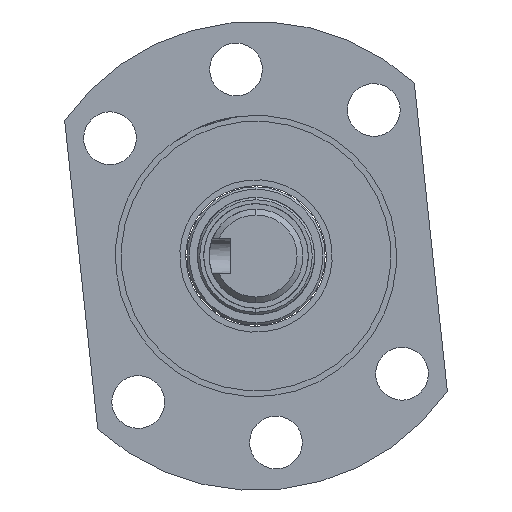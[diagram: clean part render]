
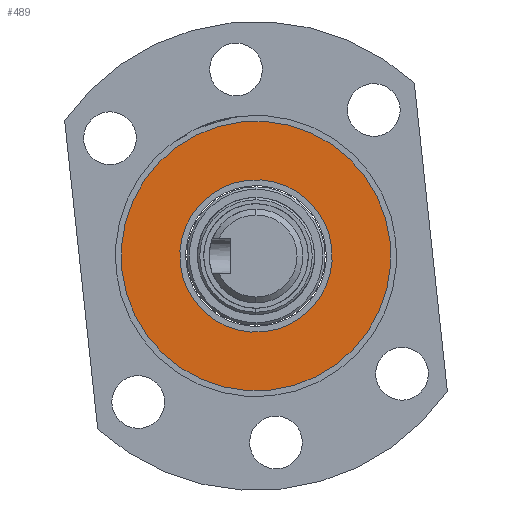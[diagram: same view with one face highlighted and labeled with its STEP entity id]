
A CAD part, left-side view. The second image highlights one B-rep face of the part: STEP entity #489.
In plain terms, the highlighted planar face has unit normal (-1, 0, 0).
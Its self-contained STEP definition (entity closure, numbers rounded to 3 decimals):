
#104 = DIRECTION ( 'NONE',  ( 0., 0., -1. ) ) ;
#150 = AXIS2_PLACEMENT_3D ( 'NONE', #4926, #5900, #104 ) ;
#348 = DIRECTION ( 'NONE',  ( 1., 0., 0. ) ) ;
#453 = VERTEX_POINT ( 'NONE', #12392 ) ;
#489 = ADVANCED_FACE ( 'NONE', ( #2304, #12456 ), #1316, .F. ) ;
#957 = DIRECTION ( 'NONE',  ( 0., 0., -1. ) ) ;
#1174 = ORIENTED_EDGE ( 'NONE', *, *, #8788, .F. ) ;
#1316 = PLANE ( 'NONE',  #9141 ) ;
#1577 = DIRECTION ( 'NONE',  ( 0., 1., 0. ) ) ;
#1619 = DIRECTION ( 'NONE',  ( 0., 0., -1. ) ) ;
#1685 = DIRECTION ( 'NONE',  ( 1., 0., 0. ) ) ;
#2024 = EDGE_CURVE ( 'NONE', #3283, #3613, #8678, .T. ) ;
#2304 = FACE_BOUND ( 'NONE', #6498, .T. ) ;
#2956 = ORIENTED_EDGE ( 'NONE', *, *, #10758, .T. ) ;
#3021 = ORIENTED_EDGE ( 'NONE', *, *, #5814, .F. ) ;
#3283 = VERTEX_POINT ( 'NONE', #12870 ) ;
#3525 = CARTESIAN_POINT ( 'NONE',  ( -45.5, 0., -11.5 ) ) ;
#3613 = VERTEX_POINT ( 'NONE', #12150 ) ;
#4022 = CARTESIAN_POINT ( 'NONE',  ( -45.5, 0., 0. ) ) ;
#4128 = AXIS2_PLACEMENT_3D ( 'NONE', #7676, #1685, #957 ) ;
#4926 = CARTESIAN_POINT ( 'NONE',  ( -45.5, 0., 0. ) ) ;
#5298 = CARTESIAN_POINT ( 'NONE',  ( -45.5, 9., 0. ) ) ;
#5424 = CIRCLE ( 'NONE', #11236, 11.5 ) ;
#5735 = AXIS2_PLACEMENT_3D ( 'NONE', #6758, #9752, #1619 ) ;
#5804 = ORIENTED_EDGE ( 'NONE', *, *, #2024, .T. ) ;
#5814 = EDGE_CURVE ( 'NONE', #453, #12024, #5424, .T. ) ;
#5900 = DIRECTION ( 'NONE',  ( 1., 0., 0. ) ) ;
#6498 = EDGE_LOOP ( 'NONE', ( #2956, #5804 ) ) ;
#6758 = CARTESIAN_POINT ( 'NONE',  ( -45.5, 0., 0. ) ) ;
#7676 = CARTESIAN_POINT ( 'NONE',  ( -45.5, 0., 0. ) ) ;
#8647 = CIRCLE ( 'NONE', #5735, 11.5 ) ;
#8678 = CIRCLE ( 'NONE', #150, 6.5 ) ;
#8788 = EDGE_CURVE ( 'NONE', #12024, #453, #8647, .T. ) ;
#9141 = AXIS2_PLACEMENT_3D ( 'NONE', #5298, #348, #1577 ) ;
#9752 = DIRECTION ( 'NONE',  ( 1., 0., 0. ) ) ;
#9888 = DIRECTION ( 'NONE',  ( 1., 0., 0. ) ) ;
#10577 = CIRCLE ( 'NONE', #4128, 6.5 ) ;
#10630 = EDGE_LOOP ( 'NONE', ( #1174, #3021 ) ) ;
#10758 = EDGE_CURVE ( 'NONE', #3613, #3283, #10577, .T. ) ;
#11236 = AXIS2_PLACEMENT_3D ( 'NONE', #4022, #9888, #12763 ) ;
#12024 = VERTEX_POINT ( 'NONE', #3525 ) ;
#12150 = CARTESIAN_POINT ( 'NONE',  ( -45.5, 0., -6.5 ) ) ;
#12392 = CARTESIAN_POINT ( 'NONE',  ( -45.5, 0., 11.5 ) ) ;
#12456 = FACE_OUTER_BOUND ( 'NONE', #10630, .T. ) ;
#12763 = DIRECTION ( 'NONE',  ( 0., 0., -1. ) ) ;
#12870 = CARTESIAN_POINT ( 'NONE',  ( -45.5, 0., 6.5 ) ) ;
